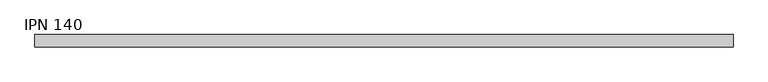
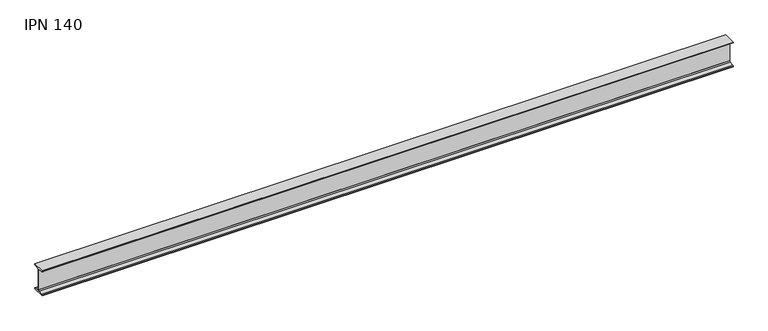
"""IFC4 building model written with IfcOpenShell, lengths in millimetres: beam geometry, IPN - Secciones en I con alas cónicas : IPN 140."""

from ifc_helpers import new_model, si_unit, point, frame, frame_2d, origin, place, context, project, spatial, polyline, circle_curve, trimmed, segment, composite_curve, outline, extrude, source, transform, mapped, element, save


def ipn_140_a4fef78c(model_context):
    return source(origin(), model_context, "Body", "SweptSolid", [
        extrude(outline(composite_curve([segment(polyline([(33.0, 70.0), (33.0, 66.6671583)]), True, "CONTINUOUS"), segment(trimmed(circle_curve(frame_2d((29.6, 66.6671583)), 3.4), [point((33.0, 66.6671583))], [point((30.0714027, 63.2999964))], False, "CARTESIAN"), True, "CONTINUOUS"), segment(polyline([(30.0714027, 63.2999964), (7.7597073, 60.176359)]), True, "CONTINUOUS"), segment(trimmed(circle_curve(frame_2d((8.55, 54.5314111)), 5.7), [point((7.7597073, 60.176359))], [point((2.85, 54.5314111))], True, "CARTESIAN"), True, "CONTINUOUS"), segment(polyline([(2.85, 54.5314111), (2.85, -54.5314111)]), True, "CONTINUOUS"), segment(trimmed(circle_curve(frame_2d((8.55, -54.5314111)), 5.7), [point((2.85, -54.5314111))], [point((7.7597073, -60.176359))], True, "CARTESIAN"), True, "CONTINUOUS"), segment(polyline([(7.7597073, -60.176359), (30.0714027, -63.2999964)]), True, "CONTINUOUS"), segment(trimmed(circle_curve(frame_2d((29.6, -66.6671583)), 3.4), [point((30.0714027, -63.2999964))], [point((33.0, -66.6671583))], False, "CARTESIAN"), True, "CONTINUOUS"), segment(polyline([(33.0, -66.6671583), (33.0, -70.0), (-33.0, -70.0), (-33.0, -66.6671583)]), True, "CONTINUOUS"), segment(trimmed(circle_curve(frame_2d((-29.6, -66.6671583)), 3.4), [point((-33.0, -66.6671583))], [point((-30.0714027, -63.2999964))], False, "CARTESIAN"), True, "CONTINUOUS"), segment(polyline([(-30.0714027, -63.2999964), (-7.7597073, -60.176359)]), True, "CONTINUOUS"), segment(trimmed(circle_curve(frame_2d((-8.55, -54.5314111)), 5.7), [point((-7.7597073, -60.176359))], [point((-2.85, -54.5314111))], True, "CARTESIAN"), True, "CONTINUOUS"), segment(polyline([(-2.85, -54.5314111), (-2.85, 54.5314111)]), True, "CONTINUOUS"), segment(trimmed(circle_curve(frame_2d((-8.55, 54.5314111)), 5.7), [point((-2.85, 54.5314111))], [point((-7.7597073, 60.176359))], True, "CARTESIAN"), True, "CONTINUOUS"), segment(polyline([(-7.7597073, 60.176359), (-30.0714027, 63.2999964)]), True, "CONTINUOUS"), segment(trimmed(circle_curve(frame_2d((-29.6, 66.6671583)), 3.4), [point((-30.0714027, 63.2999964))], [point((-33.0, 66.6671583))], False, "CARTESIAN"), True, "CONTINUOUS"), segment(polyline([(-33.0, 66.6671583), (-33.0, 70.0), (33.0, 70.0)]), True, "CONTINUOUS")], self_intersect=False)), frame((-1718.5, 0.0, 0.0), z_axis=(1.0, 0.0, 0.0), x_axis=(0.0, 1.0, 0.0)), (0.0, 0.0, 1.0), 3686.0),
    ])


if __name__ == "__main__":
    model = new_model("IFC4")
    model_context = context("Model", 3, world=origin())
    ifc_project = project(units=[si_unit("LENGTHUNIT", "METRE", prefix="MILLI")], contexts=[model_context])
    site = spatial("IfcSite", under=ifc_project)
    building = spatial("IfcBuilding", under=site)
    placement = place(None, origin())
    ipn_140_shape = ipn_140_a4fef78c(model_context)
    element("IfcBeam", 1, ObjectType="IPN - Secciones en I con alas cónicas : IPN 140", at=placement, inside=building, context=model_context, shape_type="MappedRepresentation", body=[
        mapped(ipn_140_shape, transform((0.0, 0.0, 0.0), x_axis=(1.0, 0.0, 0.0), y_axis=(0.0, 1.0, 0.0), z_axis=(0.0, 0.0, 1.0))),
    ])
    save(model, "model.ifc")
